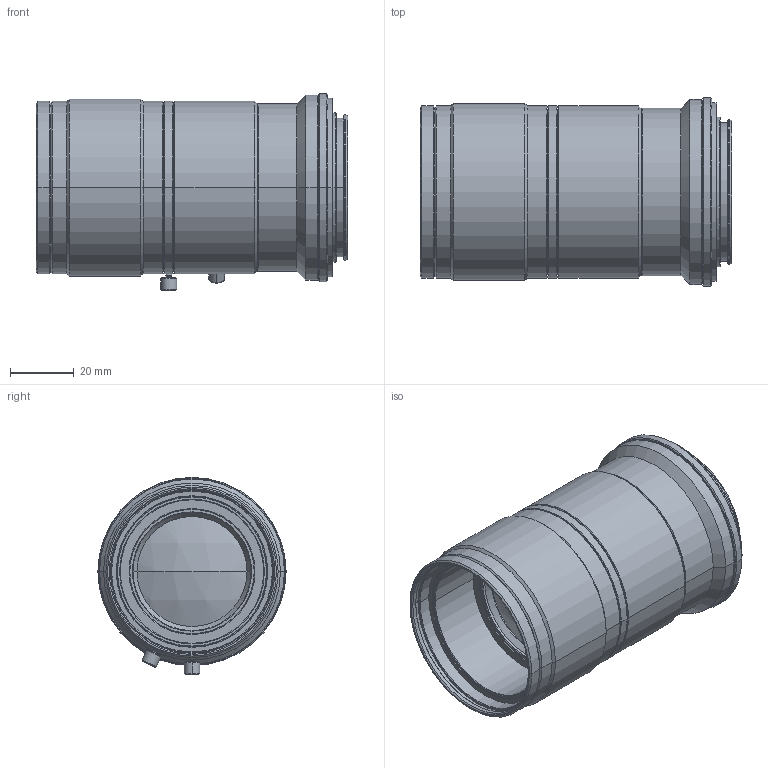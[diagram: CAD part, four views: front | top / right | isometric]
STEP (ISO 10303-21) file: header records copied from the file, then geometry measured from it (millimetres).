
FILE_DESCRIPTION (( 'STEP AP203' ), '1' );
FILE_NAME ('VS-L8540_F.STEP', '2013-10-24T00:14:14', ( 'VS Technology' ), ( '' ), 'SwSTEP 2.0', 'SolidWorks 2012', '' );
FILE_SCHEMA (( 'CONFIG_CONTROL_DESIGN' ));
Length unit declared in the file: millimetre
Products named in the file (1): VS-L8540_F
Bounding box: 97.6 x 59 x 61.8 mm (x, y, z)
Volume: 142097.6 mm3; surface area: 33349.9 mm2
Topology: 1 solids, 1 shells, 207 faces, 412 edges, 240 vertices
Faces by surface type: cone 102, cylinder 68, plane 33, sphere 4
Entity records: 5465 total; most frequent: DIRECTION 1062, CARTESIAN_POINT 924, ORIENTED_EDGE 824, AXIS2_PLACEMENT_3D 446, EDGE_CURVE 412, EDGE_LOOP 240, VERTEX_POINT 240, CIRCLE 238
